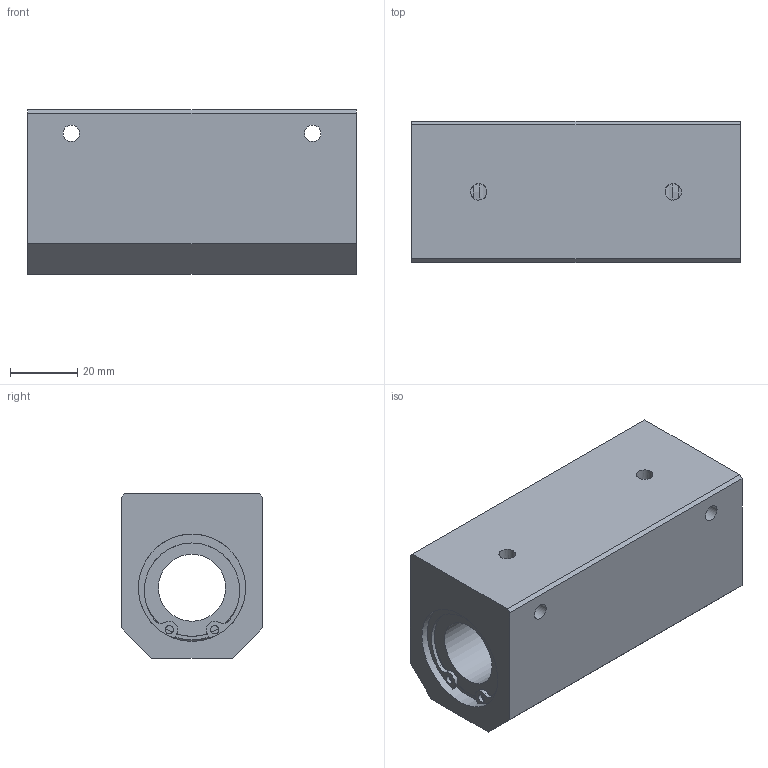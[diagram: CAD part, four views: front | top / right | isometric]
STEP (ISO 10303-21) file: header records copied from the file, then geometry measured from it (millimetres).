
FILE_DESCRIPTION((''),'2;1');
FILE_NAME('D:\製品 (図面)\カタログ用3D\メンテナンスフリー関連\STEP形式\CHW-MF\CHW20MF.stp','2010-06-01T15:33:31',('Tsuchiya'),(''),'Autodesk Inventor 10','Autodesk Inventor 10','');
FILE_SCHEMA(('AUTOMOTIVE_DESIGN { 1 0 10303 214 1 1 1 1 }'));
Length unit declared in the file: millimetre
Products named in the file (1): CHW20MF
Bounding box: 98 x 42 x 49 mm (x, y, z)
Volume: 156601.6 mm3; surface area: 29885.6 mm2
Topology: 1 solids, 1 shells, 77 faces, 201 edges, 124 vertices
Faces by surface type: plane 33, bspline 22, cylinder 20, torus 2
Full cylindrical faces by diameter (mm): 2.5 x2, 20 x1, 29 x2, 30.3 x2, 32 x2
Entity records: 2478 total; most frequent: CARTESIAN_POINT 736, DIRECTION 364, ORIENTED_EDGE 328, EDGE_CURVE 164, AXIS2_PLACEMENT_3D 154, EDGE_LOOP 118, VERTEX_POINT 108, CIRCLE 98
